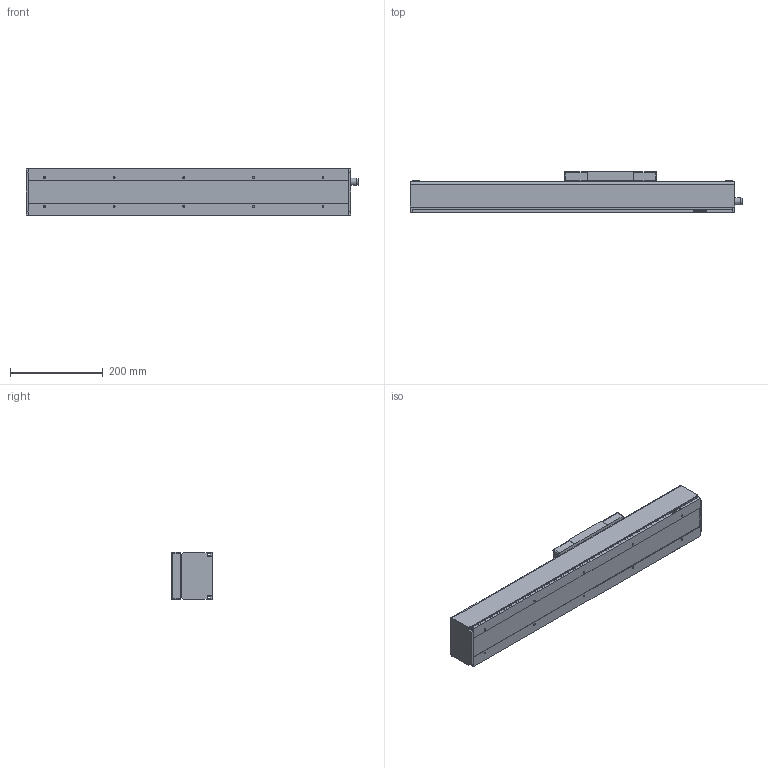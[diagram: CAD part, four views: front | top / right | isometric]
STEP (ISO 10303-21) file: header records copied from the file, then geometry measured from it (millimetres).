
FILE_DESCRIPTION(/* description */ (''),/* implementation_level */ '2;1');
FILE_NAME(/* name */ 'D:\混合母檔20191031\混和母檔\混和母檔\bin\Debug\Download\3D\KS100-20C-300AFI\KS100-20C-300AFI.stp',/* time_stamp */ '2019-11-04T14:51:13+08:00',/* author */ ('user'),/* organization */ (''),/* preprocessor_version */ 'ST-DEVELOPER v16.13',/* originating_system */ 'Autodesk Inventor 2018',/* authorisation */ '');
FILE_SCHEMA (('AUTOMOTIVE_DESIGN { 1 0 10303 214 3 1 1 }'));
Length unit declared in the file: millimetre
Products named in the file (3): KS100-20C-300AFI; KS100-FI; KS100-SL
Assembly tree (2 placements, depth 2):
  KS100-20C-300AFI
    KS100-FI
    KS100-SL
Bounding box: 715.5 x 89 x 102.4 mm (x, y, z)
Volume: 1814766.7 mm3; surface area: 567877.5 mm2
Topology: 3 solids, 7 shells, 646 faces, 1778 edges, 1170 vertices
Faces by surface type: plane 345, bspline 136, cylinder 74, cone 71, torus 16, sphere 4
Full cylindrical faces by diameter (mm): 2.459 x4, 3.242 x4, 3.571 x8, 4 x4, 4.134 x10, 4.3 x4, 6 x7, 8 x4, 8.4 x4, 14 x1, 15.538 x1, 28 x1, 30 x1
Entity records: 24490 total; most frequent: CARTESIAN_POINT 9318, ORIENTED_EDGE 3288, DIRECTION 2649, EDGE_CURVE 1644, VERTEX_POINT 1128, LINE 1057, VECTOR 1057, EDGE_LOOP 802
